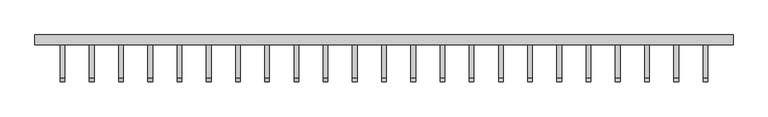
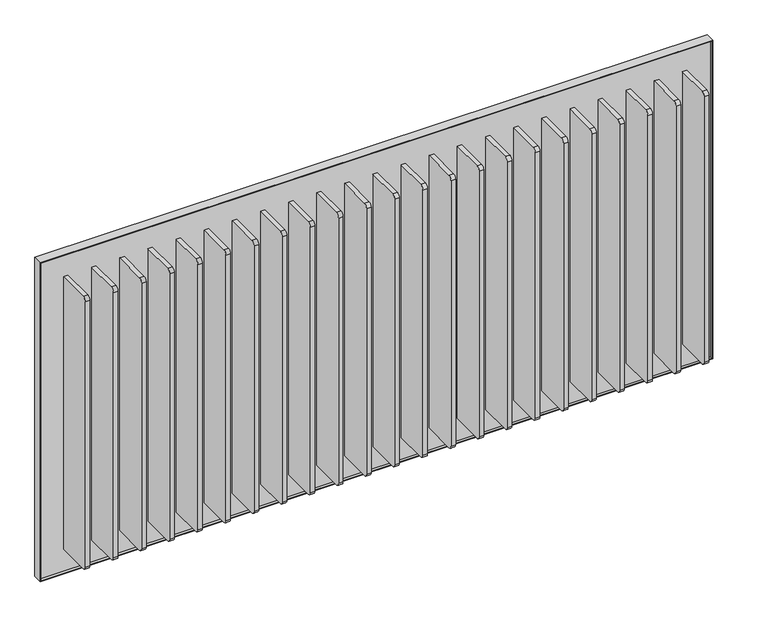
"""IFC4 building model written with IfcOpenShell, lengths in millimetres: proxy geometry, Frame_Cascade 3.3dm."""

import ifcopenshell
import ifcopenshell.guid

model = None  # the IFC model being written
_history = None  # IfcOwnerHistory: only IFC2X3 demands one
_inside = {}  # id of a spatial element -> (the spatial element, [elements in it])
_under = {}  # id of a project, library or spatial element -> (it, [spatial elements below it])
_declared = {}  # id of a project -> (the project, [libraries it declares])
_typed = {}  # id of a type object -> (the type object, [elements of that type])
_made_of = {}  # id of a material, layer set ... -> (it, [elements and type objects made of it])


def new_model(schema):
    """Start an empty IFC model of exactly this schema.

    Asked for "IFC4X3", IfcOpenShell would pick the latest addendum, in which some entities
    have other attributes; the version numbers below select the first issue.
    IFC2X3 requires an IfcOwnerHistory on every rooted entity: one is made here for all.
    """
    global model, _history
    if schema == "IFC4X3":
        model = ifcopenshell.file(schema_version=(4, 3, 0, 0))
    else:
        model = ifcopenshell.file(schema=schema)
    _inside.clear()
    _under.clear()
    _declared.clear()
    _typed.clear()
    _made_of.clear()
    _history = None
    if model.schema == "IFC2X3":
        org = make("IfcOrganization", Name="unknown")
        user = make(
            "IfcPersonAndOrganization",
            ThePerson=make("IfcPerson", FamilyName="unknown"),
            TheOrganization=org,
        )
        app = make(
            "IfcApplication",
            ApplicationDeveloper=org,
            Version="unknown",
            ApplicationFullName="unknown",
            ApplicationIdentifier="unknown",
        )
        _history = make(
            "IfcOwnerHistory",
            OwningUser=user,
            OwningApplication=app,
            ChangeAction="ADDED",
            CreationDate=0,
        )
    return model


def make(cls, **values):
    """One entity of the class cls with the attributes given. An attribute that is None is left unset."""
    return model.create_entity(
        cls, **{name: value for name, value in values.items() if value is not None}
    )


def rooted(cls, **values):
    """An entity with a GlobalId (a new one), such as an element, a storey or a relation."""
    return make(cls, GlobalId=ifcopenshell.guid.new(), OwnerHistory=_history, **values)


def si_unit(unit_type, name, prefix=None):
    """IfcSIUnit, for example si_unit("LENGTHUNIT", "METRE", prefix="MILLI")."""
    return make("IfcSIUnit", UnitType=unit_type, Prefix=prefix, Name=name)


def assignment(units):
    """IfcUnitAssignment: the units of a project."""
    return None if units is None else make("IfcUnitAssignment", Units=units)


def point(xyz):
    """IfcCartesianPoint."""
    return None if xyz is None else make("IfcCartesianPoint", Coordinates=xyz)


def direction(xyz):
    """IfcDirection."""
    return None if xyz is None else make("IfcDirection", DirectionRatios=xyz)


def frame(location, z_axis=None, x_axis=None):
    """IfcAxis2Placement3D, a coordinate frame: its origin and axes. An axis left out is left unset."""
    return make(
        "IfcAxis2Placement3D",
        Location=point(location),
        Axis=direction(z_axis),
        RefDirection=direction(x_axis),
    )


def frame_2d(location, x_axis=None):
    """IfcAxis2Placement2D, a coordinate frame in the plane: its origin and x axis."""
    return make(
        "IfcAxis2Placement2D", Location=point(location), RefDirection=direction(x_axis)
    )


def origin():
    """The frame at (0, 0, 0) with its axes left unset."""
    return frame((0.0, 0.0, 0.0))


def place(relative_to, where):
    """IfcLocalPlacement: puts the frame where relative to a parent placement (None: the world)."""
    return make(
        "IfcLocalPlacement", PlacementRelTo=relative_to, RelativePlacement=where
    )


def context(
    kind, dimensions, precision=None, world=None, true_north=None, identifier=None
):
    """IfcGeometricRepresentationContext, for example the 3D "Model" context."""
    return make(
        "IfcGeometricRepresentationContext",
        ContextIdentifier=identifier,
        ContextType=kind,
        CoordinateSpaceDimension=dimensions,
        Precision=precision,
        WorldCoordinateSystem=world,
        TrueNorth=true_north,
    )


def project(units=None, contexts=None):
    """IfcProject with its units and contexts."""
    return rooted(
        "IfcProject",
        Name="project",
        RepresentationContexts=contexts,
        UnitsInContext=assignment(units),
    )


def spatial(cls, under=None, at=None, **own):
    """A site, building, storey or space (cls), placed at a placement, below another one or the project."""
    s = rooted(cls, ObjectPlacement=at, **own)
    if under is not None:
        _under.setdefault(under.id(), (under, []))[1].append(s)
    return s


def polyline(points):
    """IfcPolyline through the points."""
    return make("IfcPolyline", Points=[point(p) for p in points])


def circle_curve(where, radius):
    """IfcCircle in the frame where."""
    return make("IfcCircle", Position=where, Radius=radius)


def trimmed(basis, trim1, trim2, sense, master):
    """IfcTrimmedCurve: the piece of a basis curve between two trims."""
    return make(
        "IfcTrimmedCurve",
        BasisCurve=basis,
        Trim1=trim1,
        Trim2=trim2,
        SenseAgreement=sense,
        MasterRepresentation=master,
    )


def segment(curve, same_sense, transition):
    """IfcCompositeCurveSegment."""
    return make(
        "IfcCompositeCurveSegment",
        Transition=transition,
        SameSense=same_sense,
        ParentCurve=curve,
    )


def composite_curve(segments, self_intersect=None):
    """IfcCompositeCurve: segments joined end to end."""
    return make("IfcCompositeCurve", Segments=segments, SelfIntersect=self_intersect)


def outline(outer, holes=None, kind="AREA"):
    """IfcArbitraryClosedProfileDef: a profile drawn as a closed curve; with holes, ...WithVoids."""
    if holes is None:
        return make("IfcArbitraryClosedProfileDef", ProfileType=kind, OuterCurve=outer)
    return make(
        "IfcArbitraryProfileDefWithVoids",
        ProfileType=kind,
        OuterCurve=outer,
        InnerCurves=holes,
    )


def extrude(swept, where, along, depth):
    """IfcExtrudedAreaSolid: the profile swept, set in the frame where, extruded along a direction by depth."""
    return make(
        "IfcExtrudedAreaSolid",
        SweptArea=swept,
        Position=where,
        ExtrudedDirection=direction(along),
        Depth=depth,
    )


def shape(context_of_items, identifier, shape_type, items):
    """IfcShapeRepresentation: the items that make up one representation, for example the "Body"."""
    return make(
        "IfcShapeRepresentation",
        ContextOfItems=context_of_items,
        RepresentationIdentifier=identifier,
        RepresentationType=shape_type,
        Items=items,
    )


def source(mapping_origin, context_of_items, identifier, shape_type, items):
    """IfcRepresentationMap: a shape defined once, which mapped items show again and again."""
    return make(
        "IfcRepresentationMap",
        MappingOrigin=mapping_origin,
        MappedRepresentation=shape(context_of_items, identifier, shape_type, items),
    )


def transform(
    local_origin,
    x_axis=None,
    y_axis=None,
    z_axis=None,
    scale=None,
    scale2=None,
    scale3=None,
    uniform=True,
):
    """IfcCartesianTransformationOperator3D, or its non-uniform kind. x_axis, y_axis, z_axis: its Axis1, 2, 3."""
    if uniform:
        return make(
            "IfcCartesianTransformationOperator3D",
            Axis1=direction(x_axis),
            Axis2=direction(y_axis),
            LocalOrigin=point(local_origin),
            Scale=scale,
            Axis3=direction(z_axis),
        )
    return make(
        "IfcCartesianTransformationOperator3DnonUniform",
        Axis1=direction(x_axis),
        Axis2=direction(y_axis),
        LocalOrigin=point(local_origin),
        Scale=scale,
        Axis3=direction(z_axis),
        Scale2=scale2,
        Scale3=scale3,
    )


def mapped(mapping_source, mapping_target):
    """IfcMappedItem: shows the shape of a source again, moved by a transform."""
    return make(
        "IfcMappedItem", MappingSource=mapping_source, MappingTarget=mapping_target
    )


def made_of(thing, what):
    """Note that an element or type object is made of a material, layer set ...; save() writes the relation."""
    if what is not None:
        _made_of.setdefault(what.id(), (what, []))[1].append(thing)
    return thing


def element(
    cls,
    number,
    at=None,
    inside=None,
    cuts=None,
    type_object=None,
    material=None,
    context=None,
    identifier="Body",
    shape_type=None,
    held_by="IfcProductDefinitionShape",
    body=None,
    shapes=None,
    **own,
):
    """One element of the class cls, such as IfcWall. Its Tag is "e" and its number.

    at: its placement. inside: the storey or other place that contains it. cuts: it is an
    opening in that element (IfcRelVoidsElement). A single representation is given by context,
    identifier, shape_type and body (its items); several are given by shapes. held_by: the class
    of the entity that holds the representations. save() writes the other relations.
    """
    e = rooted(cls, Tag="e%d" % number, ObjectPlacement=at, **own)
    if body is not None:
        shapes = [shape(context, identifier, shape_type, body)]
    if shapes is not None:
        e.Representation = make(held_by, Representations=shapes)
    if inside is not None:
        _inside.setdefault(inside.id(), (inside, []))[1].append(e)
    if cuts is not None:
        rooted(
            "IfcRelVoidsElement", RelatingBuildingElement=cuts, RelatedOpeningElement=e
        )
    if type_object is not None:
        _typed.setdefault(type_object.id(), (type_object, []))[1].append(e)
    return made_of(e, material)


def aggregate(whole, parts):
    """IfcRelAggregates: a whole, such as a stair, and the parts it consists of."""
    return rooted("IfcRelAggregates", RelatingObject=whole, RelatedObjects=parts)


def save(model, path):
    """Write the relations noted so far, then the file.

    IfcRelAggregates (storeys below a building ...), IfcRelContainedInSpatialStructure (elements
    in a storey), IfcRelDefinesByType, IfcRelAssociatesMaterial and IfcRelDeclares: one each for
    every whole, place, type object, material and project.
    """
    for whole, parts in _under.values():
        aggregate(whole, parts)
    for where, things in _inside.values():
        rooted(
            "IfcRelContainedInSpatialStructure",
            RelatedElements=things,
            RelatingStructure=where,
        )
    for kind, things in _typed.values():
        rooted("IfcRelDefinesByType", RelatedObjects=things, RelatingType=kind)
    for what, things in _made_of.values():
        rooted("IfcRelAssociatesMaterial", RelatedObjects=things, RelatingMaterial=what)
    for by, libraries in _declared.values():
        rooted("IfcRelDeclares", RelatingContext=by, RelatedDefinitions=libraries)
    model.write(path)


def generic_models_489bb385(model_context):
    return source(origin(), model_context, "Body", "SweptSolid", [
        extrude(outline(polyline([(3026.6541345, 7738.0913293), (3930.6541345, 7738.0913293), (3930.6541345, 5934.0913293), (3026.6541345, 5934.0913293), (3026.6541345, 7738.0913293)]), holes=[polyline([(3028.6541345, 7736.0913293), (3028.6541345, 5936.0913293), (3928.6541345, 5936.0913293), (3928.6541345, 7736.0913293), (3028.6541345, 7736.0913293)])]), frame((0.0, 107.5568681, 0.0), z_axis=(0.0, 1.0, 0.0), x_axis=(0.0, 0.0, 1.0)), (0.0, 0.0, 1.0), 25.4),
        extrude(outline(polyline([(7736.0913293, 114.2568681), (5936.0913293, 114.2568681), (5936.0913293, 126.2568681), (7736.0913293, 126.2568681), (7736.0913293, 114.2568681)])), frame((0.0, 0.0, 3028.6541345), z_axis=(0.0, 0.0, 1.0), x_axis=(1.0, 0.0, 0.0)), (0.0, 0.0, 1.0), 900.0),
        extrude(outline(composite_curve([segment(trimmed(circle_curve(frame_2d((21.9568681, 3102.1541345)), 10.0), [point((21.9568681, 3092.1541345))], [point((11.9568681, 3102.1541345))], False, "CARTESIAN"), True, "CONTINUOUS"), segment(polyline([(11.9568681, 3102.1541345), (11.9568681, 3855.1541345)]), True, "CONTINUOUS"), segment(trimmed(circle_curve(frame_2d((21.9568681, 3855.1541345)), 10.0), [point((11.9568681, 3855.1541345))], [point((21.9568681, 3865.1541345))], False, "CARTESIAN"), True, "CONTINUOUS"), segment(polyline([(21.9568681, 3865.1541345), (114.2568681, 3865.1541345), (114.2568681, 3092.1541345), (21.9568681, 3092.1541345)]), True, "CONTINUOUS")], self_intersect=False)), frame((6150.5913293, 0.0, 0.0), z_axis=(1.0, 0.0, 0.0), x_axis=(0.0, 1.0, 0.0)), (0.0, 0.0, 1.0), 12.0),
        extrude(outline(composite_curve([segment(trimmed(circle_curve(frame_2d((21.9568681, 3102.1541345)), 10.0), [point((21.9568681, 3092.1541345))], [point((11.9568681, 3102.1541345))], False, "CARTESIAN"), True, "CONTINUOUS"), segment(polyline([(11.9568681, 3102.1541345), (11.9568681, 3855.1541345)]), True, "CONTINUOUS"), segment(trimmed(circle_curve(frame_2d((21.9568681, 3855.1541345)), 10.0), [point((11.9568681, 3855.1541345))], [point((21.9568681, 3865.1541345))], False, "CARTESIAN"), True, "CONTINUOUS"), segment(polyline([(21.9568681, 3865.1541345), (114.2568681, 3865.1541345), (114.2568681, 3092.1541345), (21.9568681, 3092.1541345)]), True, "CONTINUOUS")], self_intersect=False)), frame((6075.0913293, 0.0, 0.0), z_axis=(1.0, 0.0, 0.0), x_axis=(0.0, 1.0, 0.0)), (0.0, 0.0, 1.0), 12.0),
        extrude(outline(composite_curve([segment(trimmed(circle_curve(frame_2d((21.9568681, 3102.1541345)), 10.0), [point((21.9568681, 3092.1541345))], [point((11.9568681, 3102.1541345))], False, "CARTESIAN"), True, "CONTINUOUS"), segment(polyline([(11.9568681, 3102.1541345), (11.9568681, 3855.1541345)]), True, "CONTINUOUS"), segment(trimmed(circle_curve(frame_2d((21.9568681, 3855.1541345)), 10.0), [point((11.9568681, 3855.1541345))], [point((21.9568681, 3865.1541345))], False, "CARTESIAN"), True, "CONTINUOUS"), segment(polyline([(21.9568681, 3865.1541345), (114.2568681, 3865.1541345), (114.2568681, 3092.1541345), (21.9568681, 3092.1541345)]), True, "CONTINUOUS")], self_intersect=False)), frame((5999.5913293, 0.0, 0.0), z_axis=(1.0, 0.0, 0.0), x_axis=(0.0, 1.0, 0.0)), (0.0, 0.0, 1.0), 12.0),
        extrude(outline(composite_curve([segment(polyline([(11.9568681, 3102.1541345), (11.9568681, 3855.1541345)]), True, "CONTINUOUS"), segment(trimmed(circle_curve(frame_2d((21.9568681, 3855.1541345)), 10.0), [point((11.9568681, 3855.1541345))], [point((21.9568681, 3865.1541345))], False, "CARTESIAN"), True, "CONTINUOUS"), segment(polyline([(21.9568681, 3865.1541345), (114.2568681, 3865.1541345), (114.2568681, 3092.1541345), (21.9568681, 3092.1541345)]), True, "CONTINUOUS"), segment(trimmed(circle_curve(frame_2d((21.9568681, 3102.1541345)), 10.0), [point((21.9568681, 3092.1541345))], [point((11.9568681, 3102.1541345))], False, "CARTESIAN"), True, "CONTINUOUS")], self_intersect=False)), frame((6754.5913293, 0.0, 0.0), z_axis=(1.0, 0.0, 0.0), x_axis=(0.0, 1.0, 0.0)), (0.0, 0.0, 1.0), 12.0),
        extrude(outline(composite_curve([segment(trimmed(circle_curve(frame_2d((21.9568681, 3102.1541345)), 10.0), [point((21.9568681, 3092.1541345))], [point((11.9568681, 3102.1541345))], False, "CARTESIAN"), True, "CONTINUOUS"), segment(polyline([(11.9568681, 3102.1541345), (11.9568681, 3855.1541345)]), True, "CONTINUOUS"), segment(trimmed(circle_curve(frame_2d((21.9568681, 3855.1541345)), 10.0), [point((11.9568681, 3855.1541345))], [point((21.9568681, 3865.1541345))], False, "CARTESIAN"), True, "CONTINUOUS"), segment(polyline([(21.9568681, 3865.1541345), (114.2568681, 3865.1541345), (114.2568681, 3092.1541345), (21.9568681, 3092.1541345)]), True, "CONTINUOUS")], self_intersect=False)), frame((6452.5913293, 0.0, 0.0), z_axis=(1.0, 0.0, 0.0), x_axis=(0.0, 1.0, 0.0)), (0.0, 0.0, 1.0), 12.0),
        extrude(outline(composite_curve([segment(trimmed(circle_curve(frame_2d((21.9568681, 3102.1541345)), 10.0), [point((21.9568681, 3092.1541345))], [point((11.9568681, 3102.1541345))], False, "CARTESIAN"), True, "CONTINUOUS"), segment(polyline([(11.9568681, 3102.1541345), (11.9568681, 3855.1541345)]), True, "CONTINUOUS"), segment(trimmed(circle_curve(frame_2d((21.9568681, 3855.1541345)), 10.0), [point((11.9568681, 3855.1541345))], [point((21.9568681, 3865.1541345))], False, "CARTESIAN"), True, "CONTINUOUS"), segment(polyline([(21.9568681, 3865.1541345), (114.2568681, 3865.1541345), (114.2568681, 3092.1541345), (21.9568681, 3092.1541345)]), True, "CONTINUOUS")], self_intersect=False)), frame((6301.5913293, 0.0, 0.0), z_axis=(1.0, 0.0, 0.0), x_axis=(0.0, 1.0, 0.0)), (0.0, 0.0, 1.0), 12.0),
        extrude(outline(composite_curve([segment(trimmed(circle_curve(frame_2d((21.9568681, 3102.1541345)), 10.0), [point((21.9568681, 3092.1541345))], [point((11.9568681, 3102.1541345))], False, "CARTESIAN"), True, "CONTINUOUS"), segment(polyline([(11.9568681, 3102.1541345), (11.9568681, 3855.1541345)]), True, "CONTINUOUS"), segment(trimmed(circle_curve(frame_2d((21.9568681, 3855.1541345)), 10.0), [point((11.9568681, 3855.1541345))], [point((21.9568681, 3865.1541345))], False, "CARTESIAN"), True, "CONTINUOUS"), segment(polyline([(21.9568681, 3865.1541345), (114.2568681, 3865.1541345), (114.2568681, 3092.1541345), (21.9568681, 3092.1541345)]), True, "CONTINUOUS")], self_intersect=False)), frame((6603.5913293, 0.0, 0.0), z_axis=(1.0, 0.0, 0.0), x_axis=(0.0, 1.0, 0.0)), (0.0, 0.0, 1.0), 12.0),
        extrude(outline(composite_curve([segment(trimmed(circle_curve(frame_2d((21.9568681, 3102.1541345)), 10.0), [point((21.9568681, 3092.1541345))], [point((11.9568681, 3102.1541345))], False, "CARTESIAN"), True, "CONTINUOUS"), segment(polyline([(11.9568681, 3102.1541345), (11.9568681, 3855.1541345)]), True, "CONTINUOUS"), segment(trimmed(circle_curve(frame_2d((21.9568681, 3855.1541345)), 10.0), [point((11.9568681, 3855.1541345))], [point((21.9568681, 3865.1541345))], False, "CARTESIAN"), True, "CONTINUOUS"), segment(polyline([(21.9568681, 3865.1541345), (114.2568681, 3865.1541345), (114.2568681, 3092.1541345), (21.9568681, 3092.1541345)]), True, "CONTINUOUS")], self_intersect=False)), frame((6528.0913293, 0.0, 0.0), z_axis=(1.0, 0.0, 0.0), x_axis=(0.0, 1.0, 0.0)), (0.0, 0.0, 1.0), 12.0),
        extrude(outline(composite_curve([segment(trimmed(circle_curve(frame_2d((21.9568681, 3102.1541345)), 10.0), [point((21.9568681, 3092.1541345))], [point((11.9568681, 3102.1541345))], False, "CARTESIAN"), True, "CONTINUOUS"), segment(polyline([(11.9568681, 3102.1541345), (11.9568681, 3855.1541345)]), True, "CONTINUOUS"), segment(trimmed(circle_curve(frame_2d((21.9568681, 3855.1541345)), 10.0), [point((11.9568681, 3855.1541345))], [point((21.9568681, 3865.1541345))], False, "CARTESIAN"), True, "CONTINUOUS"), segment(polyline([(21.9568681, 3865.1541345), (114.2568681, 3865.1541345), (114.2568681, 3092.1541345), (21.9568681, 3092.1541345)]), True, "CONTINUOUS")], self_intersect=False)), frame((6226.0913293, 0.0, 0.0), z_axis=(1.0, 0.0, 0.0), x_axis=(0.0, 1.0, 0.0)), (0.0, 0.0, 1.0), 12.0),
        extrude(outline(composite_curve([segment(polyline([(11.9568681, 3102.1541345), (11.9568681, 3855.1541345)]), True, "CONTINUOUS"), segment(trimmed(circle_curve(frame_2d((21.9568681, 3855.1541345)), 10.0), [point((11.9568681, 3855.1541345))], [point((21.9568681, 3865.1541345))], False, "CARTESIAN"), True, "CONTINUOUS"), segment(polyline([(21.9568681, 3865.1541345), (114.2568681, 3865.1541345), (114.2568681, 3092.1541345), (21.9568681, 3092.1541345)]), True, "CONTINUOUS"), segment(trimmed(circle_curve(frame_2d((21.9568681, 3102.1541345)), 10.0), [point((21.9568681, 3092.1541345))], [point((11.9568681, 3102.1541345))], False, "CARTESIAN"), True, "CONTINUOUS")], self_intersect=False)), frame((6830.0913293, 0.0, 0.0), z_axis=(1.0, 0.0, 0.0), x_axis=(0.0, 1.0, 0.0)), (0.0, 0.0, 1.0), 12.0),
        extrude(outline(composite_curve([segment(trimmed(circle_curve(frame_2d((21.9568681, 3102.1541345)), 10.0), [point((21.9568681, 3092.1541345))], [point((11.9568681, 3102.1541345))], False, "CARTESIAN"), True, "CONTINUOUS"), segment(polyline([(11.9568681, 3102.1541345), (11.9568681, 3855.1541345)]), True, "CONTINUOUS"), segment(trimmed(circle_curve(frame_2d((21.9568681, 3855.1541345)), 10.0), [point((11.9568681, 3855.1541345))], [point((21.9568681, 3865.1541345))], False, "CARTESIAN"), True, "CONTINUOUS"), segment(polyline([(21.9568681, 3865.1541345), (114.2568681, 3865.1541345), (114.2568681, 3092.1541345), (21.9568681, 3092.1541345)]), True, "CONTINUOUS")], self_intersect=False)), frame((6679.0913293, 0.0, 0.0), z_axis=(1.0, 0.0, 0.0), x_axis=(0.0, 1.0, 0.0)), (0.0, 0.0, 1.0), 12.0),
        extrude(outline(composite_curve([segment(trimmed(circle_curve(frame_2d((21.9568681, 3102.1541345)), 10.0), [point((21.9568681, 3092.1541345))], [point((11.9568681, 3102.1541345))], False, "CARTESIAN"), True, "CONTINUOUS"), segment(polyline([(11.9568681, 3102.1541345), (11.9568681, 3855.1541345)]), True, "CONTINUOUS"), segment(trimmed(circle_curve(frame_2d((21.9568681, 3855.1541345)), 10.0), [point((11.9568681, 3855.1541345))], [point((21.9568681, 3865.1541345))], False, "CARTESIAN"), True, "CONTINUOUS"), segment(polyline([(21.9568681, 3865.1541345), (114.2568681, 3865.1541345), (114.2568681, 3092.1541345), (21.9568681, 3092.1541345)]), True, "CONTINUOUS")], self_intersect=False)), frame((6377.0913293, 0.0, 0.0), z_axis=(1.0, 0.0, 0.0), x_axis=(0.0, 1.0, 0.0)), (0.0, 0.0, 1.0), 12.0),
        extrude(outline(composite_curve([segment(polyline([(11.9568681, 3102.1541345), (11.9568681, 3855.1541345)]), True, "CONTINUOUS"), segment(trimmed(circle_curve(frame_2d((21.9568681, 3855.1541345)), 10.0), [point((11.9568681, 3855.1541345))], [point((21.9568681, 3865.1541345))], False, "CARTESIAN"), True, "CONTINUOUS"), segment(polyline([(21.9568681, 3865.1541345), (114.2568681, 3865.1541345), (114.2568681, 3092.1541345), (21.9568681, 3092.1541345)]), True, "CONTINUOUS"), segment(trimmed(circle_curve(frame_2d((21.9568681, 3102.1541345)), 10.0), [point((21.9568681, 3092.1541345))], [point((11.9568681, 3102.1541345))], False, "CARTESIAN"), True, "CONTINUOUS")], self_intersect=False)), frame((7434.0913293, 0.0, 0.0), z_axis=(1.0, 0.0, 0.0), x_axis=(0.0, 1.0, 0.0)), (0.0, 0.0, 1.0), 12.0),
        extrude(outline(composite_curve([segment(polyline([(11.9568681, 3102.1541345), (11.9568681, 3855.1541345)]), True, "CONTINUOUS"), segment(trimmed(circle_curve(frame_2d((21.9568681, 3855.1541345)), 10.0), [point((11.9568681, 3855.1541345))], [point((21.9568681, 3865.1541345))], False, "CARTESIAN"), True, "CONTINUOUS"), segment(polyline([(21.9568681, 3865.1541345), (114.2568681, 3865.1541345), (114.2568681, 3092.1541345), (21.9568681, 3092.1541345)]), True, "CONTINUOUS"), segment(trimmed(circle_curve(frame_2d((21.9568681, 3102.1541345)), 10.0), [point((21.9568681, 3092.1541345))], [point((11.9568681, 3102.1541345))], False, "CARTESIAN"), True, "CONTINUOUS")], self_intersect=False)), frame((7056.5913293, 0.0, 0.0), z_axis=(1.0, 0.0, 0.0), x_axis=(0.0, 1.0, 0.0)), (0.0, 0.0, 1.0), 12.0),
        extrude(outline(composite_curve([segment(polyline([(11.9568681, 3102.1541345), (11.9568681, 3855.1541345)]), True, "CONTINUOUS"), segment(trimmed(circle_curve(frame_2d((21.9568681, 3855.1541345)), 10.0), [point((11.9568681, 3855.1541345))], [point((21.9568681, 3865.1541345))], False, "CARTESIAN"), True, "CONTINUOUS"), segment(polyline([(21.9568681, 3865.1541345), (114.2568681, 3865.1541345), (114.2568681, 3092.1541345), (21.9568681, 3092.1541345)]), True, "CONTINUOUS"), segment(trimmed(circle_curve(frame_2d((21.9568681, 3102.1541345)), 10.0), [point((21.9568681, 3092.1541345))], [point((11.9568681, 3102.1541345))], False, "CARTESIAN"), True, "CONTINUOUS")], self_intersect=False)), frame((7660.5913293, 0.0, 0.0), z_axis=(1.0, 0.0, 0.0), x_axis=(0.0, 1.0, 0.0)), (0.0, 0.0, 1.0), 12.0),
        extrude(outline(composite_curve([segment(polyline([(11.9568681, 3102.1541345), (11.9568681, 3855.1541345)]), True, "CONTINUOUS"), segment(trimmed(circle_curve(frame_2d((21.9568681, 3855.1541345)), 10.0), [point((11.9568681, 3855.1541345))], [point((21.9568681, 3865.1541345))], False, "CARTESIAN"), True, "CONTINUOUS"), segment(polyline([(21.9568681, 3865.1541345), (114.2568681, 3865.1541345), (114.2568681, 3092.1541345), (21.9568681, 3092.1541345)]), True, "CONTINUOUS"), segment(trimmed(circle_curve(frame_2d((21.9568681, 3102.1541345)), 10.0), [point((21.9568681, 3092.1541345))], [point((11.9568681, 3102.1541345))], False, "CARTESIAN"), True, "CONTINUOUS")], self_intersect=False)), frame((7585.0913293, 0.0, 0.0), z_axis=(1.0, 0.0, 0.0), x_axis=(0.0, 1.0, 0.0)), (0.0, 0.0, 1.0), 12.0),
        extrude(outline(composite_curve([segment(polyline([(11.9568681, 3102.1541345), (11.9568681, 3855.1541345)]), True, "CONTINUOUS"), segment(trimmed(circle_curve(frame_2d((21.9568681, 3855.1541345)), 10.0), [point((11.9568681, 3855.1541345))], [point((21.9568681, 3865.1541345))], False, "CARTESIAN"), True, "CONTINUOUS"), segment(polyline([(21.9568681, 3865.1541345), (114.2568681, 3865.1541345), (114.2568681, 3092.1541345), (21.9568681, 3092.1541345)]), True, "CONTINUOUS"), segment(trimmed(circle_curve(frame_2d((21.9568681, 3102.1541345)), 10.0), [point((21.9568681, 3092.1541345))], [point((11.9568681, 3102.1541345))], False, "CARTESIAN"), True, "CONTINUOUS")], self_intersect=False)), frame((7358.5913293, 0.0, 0.0), z_axis=(1.0, 0.0, 0.0), x_axis=(0.0, 1.0, 0.0)), (0.0, 0.0, 1.0), 12.0),
        extrude(outline(composite_curve([segment(polyline([(11.9568681, 3102.1541345), (11.9568681, 3855.1541345)]), True, "CONTINUOUS"), segment(trimmed(circle_curve(frame_2d((21.9568681, 3855.1541345)), 10.0), [point((11.9568681, 3855.1541345))], [point((21.9568681, 3865.1541345))], False, "CARTESIAN"), True, "CONTINUOUS"), segment(polyline([(21.9568681, 3865.1541345), (114.2568681, 3865.1541345), (114.2568681, 3092.1541345), (21.9568681, 3092.1541345)]), True, "CONTINUOUS"), segment(trimmed(circle_curve(frame_2d((21.9568681, 3102.1541345)), 10.0), [point((21.9568681, 3092.1541345))], [point((11.9568681, 3102.1541345))], False, "CARTESIAN"), True, "CONTINUOUS")], self_intersect=False)), frame((6905.5913293, 0.0, 0.0), z_axis=(1.0, 0.0, 0.0), x_axis=(0.0, 1.0, 0.0)), (0.0, 0.0, 1.0), 12.0),
        extrude(outline(composite_curve([segment(polyline([(11.9568681, 3102.1541345), (11.9568681, 3855.1541345)]), True, "CONTINUOUS"), segment(trimmed(circle_curve(frame_2d((21.9568681, 3855.1541345)), 10.0), [point((11.9568681, 3855.1541345))], [point((21.9568681, 3865.1541345))], False, "CARTESIAN"), True, "CONTINUOUS"), segment(polyline([(21.9568681, 3865.1541345), (114.2568681, 3865.1541345), (114.2568681, 3092.1541345), (21.9568681, 3092.1541345)]), True, "CONTINUOUS"), segment(trimmed(circle_curve(frame_2d((21.9568681, 3102.1541345)), 10.0), [point((21.9568681, 3092.1541345))], [point((11.9568681, 3102.1541345))], False, "CARTESIAN"), True, "CONTINUOUS")], self_intersect=False)), frame((6981.0913293, 0.0, 0.0), z_axis=(1.0, 0.0, 0.0), x_axis=(0.0, 1.0, 0.0)), (0.0, 0.0, 1.0), 12.0),
        extrude(outline(composite_curve([segment(polyline([(11.9568681, 3102.1541345), (11.9568681, 3855.1541345)]), True, "CONTINUOUS"), segment(trimmed(circle_curve(frame_2d((21.9568681, 3855.1541345)), 10.0), [point((11.9568681, 3855.1541345))], [point((21.9568681, 3865.1541345))], False, "CARTESIAN"), True, "CONTINUOUS"), segment(polyline([(21.9568681, 3865.1541345), (114.2568681, 3865.1541345), (114.2568681, 3092.1541345), (21.9568681, 3092.1541345)]), True, "CONTINUOUS"), segment(trimmed(circle_curve(frame_2d((21.9568681, 3102.1541345)), 10.0), [point((21.9568681, 3092.1541345))], [point((11.9568681, 3102.1541345))], False, "CARTESIAN"), True, "CONTINUOUS")], self_intersect=False)), frame((7207.5913293, 0.0, 0.0), z_axis=(1.0, 0.0, 0.0), x_axis=(0.0, 1.0, 0.0)), (0.0, 0.0, 1.0), 12.0),
        extrude(outline(composite_curve([segment(polyline([(11.9568681, 3102.1541345), (11.9568681, 3855.1541345)]), True, "CONTINUOUS"), segment(trimmed(circle_curve(frame_2d((21.9568681, 3855.1541345)), 10.0), [point((11.9568681, 3855.1541345))], [point((21.9568681, 3865.1541345))], False, "CARTESIAN"), True, "CONTINUOUS"), segment(polyline([(21.9568681, 3865.1541345), (114.2568681, 3865.1541345), (114.2568681, 3092.1541345), (21.9568681, 3092.1541345)]), True, "CONTINUOUS"), segment(trimmed(circle_curve(frame_2d((21.9568681, 3102.1541345)), 10.0), [point((21.9568681, 3092.1541345))], [point((11.9568681, 3102.1541345))], False, "CARTESIAN"), True, "CONTINUOUS")], self_intersect=False)), frame((7509.5913293, 0.0, 0.0), z_axis=(1.0, 0.0, 0.0), x_axis=(0.0, 1.0, 0.0)), (0.0, 0.0, 1.0), 12.0),
        extrude(outline(composite_curve([segment(polyline([(11.9568681, 3102.1541345), (11.9568681, 3855.1541345)]), True, "CONTINUOUS"), segment(trimmed(circle_curve(frame_2d((21.9568681, 3855.1541345)), 10.0), [point((11.9568681, 3855.1541345))], [point((21.9568681, 3865.1541345))], False, "CARTESIAN"), True, "CONTINUOUS"), segment(polyline([(21.9568681, 3865.1541345), (114.2568681, 3865.1541345), (114.2568681, 3092.1541345), (21.9568681, 3092.1541345)]), True, "CONTINUOUS"), segment(trimmed(circle_curve(frame_2d((21.9568681, 3102.1541345)), 10.0), [point((21.9568681, 3092.1541345))], [point((11.9568681, 3102.1541345))], False, "CARTESIAN"), True, "CONTINUOUS")], self_intersect=False)), frame((7283.0913293, 0.0, 0.0), z_axis=(1.0, 0.0, 0.0), x_axis=(0.0, 1.0, 0.0)), (0.0, 0.0, 1.0), 12.0),
        extrude(outline(composite_curve([segment(polyline([(11.9568681, 3102.1541345), (11.9568681, 3855.1541345)]), True, "CONTINUOUS"), segment(trimmed(circle_curve(frame_2d((21.9568681, 3855.1541345)), 10.0), [point((11.9568681, 3855.1541345))], [point((21.9568681, 3865.1541345))], False, "CARTESIAN"), True, "CONTINUOUS"), segment(polyline([(21.9568681, 3865.1541345), (114.2568681, 3865.1541345), (114.2568681, 3092.1541345), (21.9568681, 3092.1541345)]), True, "CONTINUOUS"), segment(trimmed(circle_curve(frame_2d((21.9568681, 3102.1541345)), 10.0), [point((21.9568681, 3092.1541345))], [point((11.9568681, 3102.1541345))], False, "CARTESIAN"), True, "CONTINUOUS")], self_intersect=False)), frame((7132.0913293, 0.0, 0.0), z_axis=(1.0, 0.0, 0.0), x_axis=(0.0, 1.0, 0.0)), (0.0, 0.0, 1.0), 12.0),
    ])


if __name__ == "__main__":
    model = new_model("IFC4")
    model_context = context("Model", 3, world=origin())
    ifc_project = project(units=[si_unit("LENGTHUNIT", "METRE", prefix="MILLI")], contexts=[model_context])
    site = spatial("IfcSite", under=ifc_project)
    building = spatial("IfcBuilding", under=site)
    placement = place(None, origin())
    generic_models_shape = generic_models_489bb385(model_context)
    element("IfcBuildingElementProxy", 1, Name="Frame_Cascade 3.3dm", ObjectType="Frame_Cascade 3.3dm", at=placement, inside=building, context=model_context, shape_type="MappedRepresentation", body=[
        mapped(generic_models_shape, transform((0.0, 0.0, 0.0), x_axis=(1.0, 0.0, 0.0), y_axis=(0.0, 1.0, 0.0), z_axis=(0.0, 0.0, 1.0))),
    ])
    save(model, "model.ifc")
